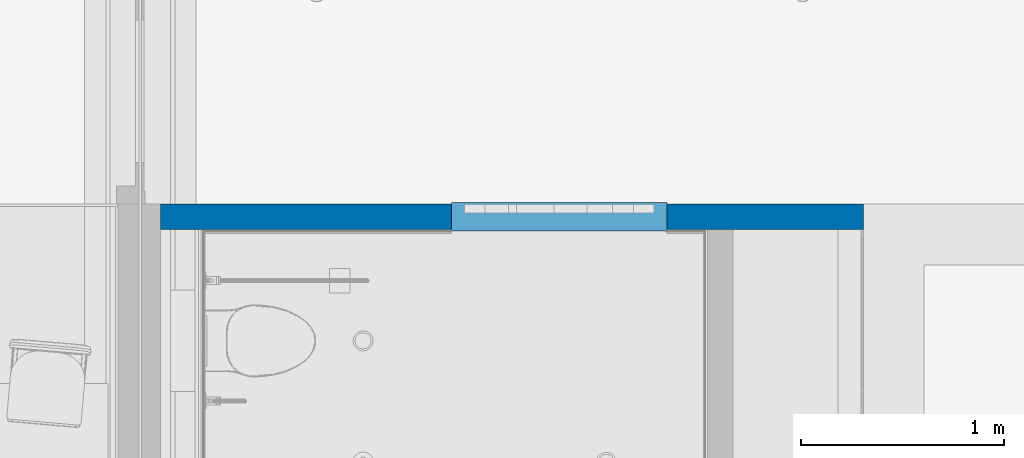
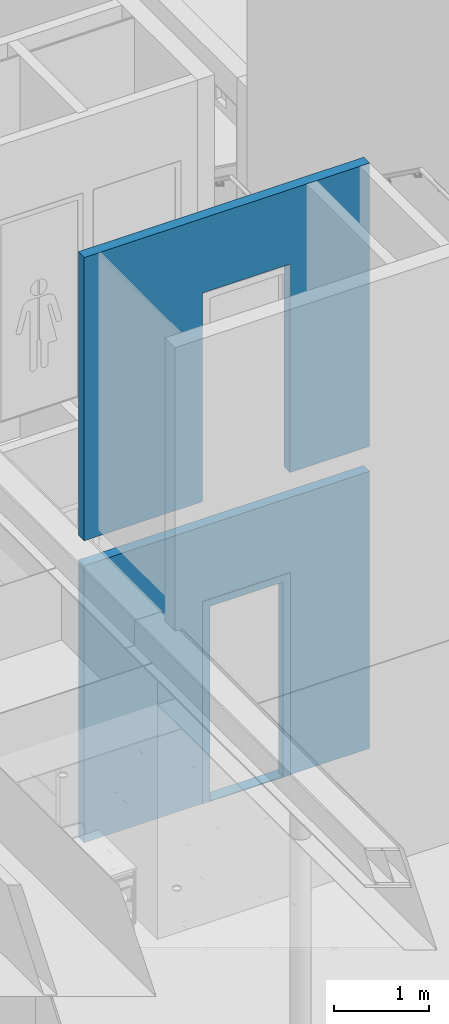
# One storey, part 52 of 347: 1 building element part, 1 wall, 2 openings, 1 element without a shape of its own.
"""IFC2X3 building model written with IfcOpenShell, lengths in millimetres."""

from ifc_helpers import new_model, entity, si_unit, converted_unit, derived_unit, money_unit, direction, frame, origin_with_axes, place, context, subcontext, project, spatial, faceted_brep, source, transform, mapped, material, type_object, element, fill, aggregate, save


model = new_model("IFC2X3")

# Units and contexts
model_context = context("Model", 3, precision=0.01, world=origin_with_axes(), true_north=direction((0.0, 1.0)))
plan_context = context("Plan", 3, precision=0.01, world=origin_with_axes(), true_north=direction((0.0, 1.0)))
body_context = subcontext(model_context, "Body", "Model", "MODEL_VIEW")
ifc_project = project(units=[si_unit("LENGTHUNIT", "METRE", prefix="MILLI"), si_unit("AREAUNIT", "SQUARE_METRE"), si_unit("VOLUMEUNIT", "CUBIC_METRE"), converted_unit("PLANEANGLEUNIT", "DEGREE", entity("IfcPlaneAngleMeasure", 0.0174532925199), si_unit("PLANEANGLEUNIT", "RADIAN"), dimensions=[0, 0, 0, 0, 0, 0, 0]), money_unit("EUR"), converted_unit("TIMEUNIT", "Year", entity("IfcTimeMeasure", 31556926.0), si_unit("TIMEUNIT", "SECOND"), dimensions=[0, 0, 1, 0, 0, 0, 0]), si_unit("MASSUNIT", "GRAM", prefix="KILO"), si_unit("THERMODYNAMICTEMPERATUREUNIT", "DEGREE_CELSIUS"), si_unit("LUMINOUSINTENSITYUNIT", "LUMEN"), si_unit("ENERGYUNIT", "JOULE", prefix="MEGA"), derived_unit("THERMALCONDUCTANCEUNIT", [(si_unit("POWERUNIT", "WATT"), 1), (si_unit("LENGTHUNIT", "METRE"), -1), (si_unit("THERMODYNAMICTEMPERATUREUNIT", "KELVIN"), -1)]), derived_unit("SPECIFICHEATCAPACITYUNIT", [(si_unit("ENERGYUNIT", "JOULE"), 1), (si_unit("MASSUNIT", "GRAM", prefix="KILO"), -1), (si_unit("THERMODYNAMICTEMPERATUREUNIT", "KELVIN"), -1)]), derived_unit("MASSDENSITYUNIT", [(si_unit("MASSUNIT", "GRAM", prefix="KILO"), 1), (si_unit("VOLUMEUNIT", "CUBIC_METRE"), -1)])], contexts=[model_context, plan_context])

# Site, building, storey
site_placement = place(None, origin_with_axes())
site = spatial("IfcSite", under=ifc_project, at=site_placement, Name="Site", CompositionType="ELEMENT")
building_placement = place(site_placement, origin_with_axes())
building = spatial("IfcBuilding", under=site, at=building_placement, Name="Naam gebouw", CompositionType="ELEMENT")
storey_placement = place(building_placement, origin_with_axes())
storey = spatial("IfcBuildingStorey", under=building, at=storey_placement, Name="begane grond", CompositionType="ELEMENT", Elevation=0.0)

# Wall, openings, door, building element part
ifc_material = material(Name="ALG - LICHTE SCHEIDINGSWAND")
wall_type = type_object("IfcWallType", Name="ALG LSW 125 125", PredefinedType="NOTDEFINED")
wall_placement = place(storey_placement, frame((35705.0, 27975.0, 0.0), z_axis=(0.0, 0.0, 1.0), x_axis=(1.0, 0.0, 0.0)))
wall = element("IfcWall", 1, at=wall_placement, inside=storey, type_object=wall_type, material=ifc_material, Name="22_GF 125 ECO DGS/2.75.2A", context=body_context, shape_type="Brep", body=[
    faceted_brep([(1436.00001783, 0.0, 2600.0), (1436.00001783, 0.0, 0.0), (0.0, 0.0, 0.0), (0.0, 0.0, 3560.0), (3470.0, 0.0, 3560.0), (3470.0, 0.0, 0.0), (2500.00001783, 0.0, 0.0), (2500.00001783, 0.0, 2600.0), (1436.00001783, -125.0, 2600.0), (1436.00001783, -125.0, 0.0), (0.0, -125.0, 0.0), (0.0, -125.0, 3560.0), (3470.0, -125.0, 3560.0), (3470.0, -125.0, 0.0), (2500.00001783, -125.0, 0.0), (2500.00001783, -125.0, 2600.0)], [[[0, 1, 2, 3, 4, 5, 6, 7]], [[1, 0, 8, 9]], [[1, 9, 10, 2]], [[11, 3, 2, 10]], [[12, 4, 3, 11]], [[4, 12, 13, 5]], [[14, 6, 5, 13]], [[7, 6, 14, 15]], [[0, 7, 15, 8]], [[15, 14, 13, 12, 11, 10, 9, 8]]]),
    faceted_brep([(1436.00001783, 0.0, 6560.0), (1436.00001783, 0.0, 3960.0), (1436.00001783, 0.0, 3880.0), (0.0, 0.0, 3880.0), (0.0, 0.0, 7520.0), (3470.0, 0.0, 7520.0), (3470.0, 0.0, 3880.0), (2500.00001783, 0.0, 3880.0), (2500.00001783, 0.0, 3960.0), (2500.00001783, 0.0, 6560.0), (1436.00001783, -125.0, 6560.0), (1436.00001783, -125.0, 3960.0), (1436.00001783, -125.0, 3880.0), (0.0, -125.0, 3880.0), (0.0, -125.0, 7520.0), (3470.0, -125.0, 7520.0), (3470.0, -125.0, 3880.0), (2500.00001783, -125.0, 3880.0), (2500.00001783, -125.0, 3960.0), (2500.00001783, -125.0, 6560.0)], [[[0, 1, 2, 3, 4, 5, 6, 7, 8, 9]], [[1, 0, 10, 11]], [[1, 11, 12, 2]], [[2, 12, 13, 3]], [[3, 13, 14, 4]], [[5, 4, 14, 15]], [[16, 6, 5, 15]], [[17, 7, 6, 16]], [[18, 8, 7, 17]], [[9, 8, 18, 19]], [[0, 9, 19, 10]], [[19, 18, 17, 16, 15, 14, 13, 12, 11, 10]]]),
])
opening_1_placement = place(wall_placement, frame((1968.00001783, 0.0, 0.0), z_axis=(0.0, 0.0, 1.0), x_axis=(1.0, 0.0, 0.0)))
opening_1 = element("IfcOpeningElement", 2, at=opening_1_placement, cuts=wall, Name="32_01.06", context=body_context, shape_type="Brep", body=[
    faceted_brep([(-532.0, 257.0, 2600.0), (-532.0, 257.0, 0.0), (-532.0, -125.0, 0.0), (-532.0, -125.0, 2600.0), (532.0, 257.0, 2600.0), (532.0, 257.0, 0.0), (532.0, -125.0, 0.0), (532.0, -125.0, 2600.0)], [[[0, 1, 2, 3]], [[0, 4, 5, 1]], [[1, 5, 6, 2]], [[3, 2, 6, 7]], [[4, 0, 3, 7]], [[5, 4, 7, 6]]]),
])
opening_2_placement = place(wall_placement, frame((1968.00001783, 0.0, 3960.0), z_axis=(0.0, 0.0, 1.0), x_axis=(1.0, 0.0, 0.0)))
element("IfcOpeningElement", 3, at=opening_2_placement, cuts=wall, Name="32_01.06", context=body_context, shape_type="Brep", body=[
    faceted_brep([(-532.0, 257.0, 2600.0), (-532.0, 257.0, 0.0), (-532.0, -125.0, 0.0), (-532.0, -125.0, 2600.0), (532.0, 257.0, 2600.0), (532.0, 257.0, 0.0), (532.0, -125.0, 0.0), (532.0, -125.0, 2600.0)], [[[0, 1, 2, 3]], [[0, 4, 5, 1]], [[1, 5, 6, 2]], [[3, 2, 6, 7]], [[4, 0, 3, 7]], [[5, 4, 7, 6]]]),
])
door_style = type_object("IfcDoorStyle", Name="D1 25", ConstructionType="NOTDEFINED", OperationType="SINGLE_SWING_LEFT", ParameterTakesPrecedence=False, Sizeable=False)
door_placement = place(opening_1_placement, frame((-532.0, 0.0, 0.0), z_axis=(0.0, 0.0, 1.0), x_axis=(1.0, 0.0, 0.0)))
door = element("IfcDoor", 4, at=door_placement, inside=storey, type_object=door_style, Name="32_01.06", ObjectType="DOOR", OverallHeight=2600.0, OverallWidth=1064.0)
fill(opening_1, door)
shared_shape = source(origin_with_axes(), body_context, "Body", "Brep", [
    faceted_brep([(467.0, -40.0, 10.0), (467.0, 0.0, 10.0), (-467.0, 0.0, 10.0), (-467.0, -40.0, 10.0), (-442.0, -40.0, 10.0), (-442.0, -139.0, 10.0), (442.0, -139.0, 10.0), (442.0, -40.0, 10.0), (467.0, -40.0, 0.0), (467.0, 0.0, 0.0), (-467.0, 0.0, 0.0), (-467.0, -40.0, 0.0), (-442.0, -40.0, 0.0), (-442.0, -139.0, 0.0), (442.0, -139.0, 0.0), (442.0, -40.0, 0.0)], [[[0, 1, 2, 3, 4, 5, 6, 7]], [[8, 9, 1, 0]], [[9, 10, 2, 1]], [[11, 3, 2, 10]], [[3, 11, 12, 4]], [[5, 4, 12, 13]], [[6, 5, 13, 14]], [[14, 15, 7, 6]], [[7, 15, 8, 0]], [[15, 14, 13, 12, 11, 10, 9, 8]]]),
    faceted_brep([(442.0, -50.0, 0.0), (442.0, -139.0, 0.0), (442.0, -139.0, 2510.0), (442.0, -50.0, 2510.0), (467.0, -50.0, 0.0), (467.0, 0.0, 0.0), (532.0, 0.0, 0.0), (532.0, -139.0, 0.0), (532.0, -139.0, 2510.0), (467.0, -50.0, 2510.0), (532.0, 0.0, 2510.0), (467.0, 0.0, 2510.0)], [[[0, 1, 2, 3]], [[4, 5, 6, 7, 1, 0]], [[1, 7, 8, 2]], [[9, 3, 2, 8, 10, 11]], [[9, 4, 0, 3]], [[11, 5, 4, 9]], [[11, 10, 6, 5]], [[6, 10, 8, 7]]]),
    faceted_brep([(-467.0, -50.0, 2510.0), (-467.0, 0.0, 2510.0), (-532.0, 0.0, 2510.0), (-532.0, -139.0, 2510.0), (-442.0, -139.0, 2510.0), (-442.0, -50.0, 2510.0), (-467.0, -50.0, 0.0), (-467.0, 0.0, 0.0), (-532.0, 0.0, 0.0), (-532.0, -139.0, 0.0), (-442.0, -139.0, 0.0), (-442.0, -50.0, 0.0)], [[[0, 1, 2, 3, 4, 5]], [[0, 6, 7, 1]], [[7, 8, 2, 1]], [[2, 8, 9, 3]], [[3, 9, 10, 4]], [[5, 4, 10, 11]], [[5, 11, 6, 0]], [[6, 11, 10, 9, 8, 7]]]),
    faceted_brep([(467.0, 0.0, 2535.0), (-467.0, 0.0, 2535.0), (-467.0, 0.0, 2510.0), (-532.0, 0.0, 2510.0), (-532.0, 0.0, 2600.0), (532.0, 0.0, 2600.0), (532.0, 0.0, 2510.0), (467.0, 0.0, 2510.0), (467.0, -50.0, 2535.0), (-467.0, -50.0, 2535.0), (-467.0, -50.0, 2510.0), (-442.0, -50.0, 2510.0), (-442.0, -139.0, 2510.0), (-532.0, -139.0, 2510.0), (-532.0, -139.0, 2600.0), (532.0, -139.0, 2600.0), (532.0, -139.0, 2510.0), (467.0, -50.0, 2510.0), (442.0, -139.0, 2510.0), (442.0, -50.0, 2510.0)], [[[0, 1, 2, 3, 4, 5, 6, 7]], [[0, 8, 9, 1]], [[1, 9, 10, 2]], [[10, 11, 12, 13, 3, 2]], [[4, 3, 13, 14]], [[5, 4, 14, 15]], [[6, 5, 15, 16]], [[17, 7, 6, 16, 18, 19]], [[7, 17, 8, 0]], [[10, 9, 8, 17, 19, 11]], [[19, 18, 12, 11]], [[12, 18, 16, 15, 14, 13]]]),
])
building_element_part_placement = place(door_placement, origin_with_axes())
building_element_part = element("IfcBuildingElementPart", 5, at=building_element_part_placement, context=body_context, shape_type="MappedRepresentation", body=[
    mapped(shared_shape, transform((532.0, 7.0, 0.0))),
])
aggregate(door, [building_element_part])

save(model, "model.ifc")
